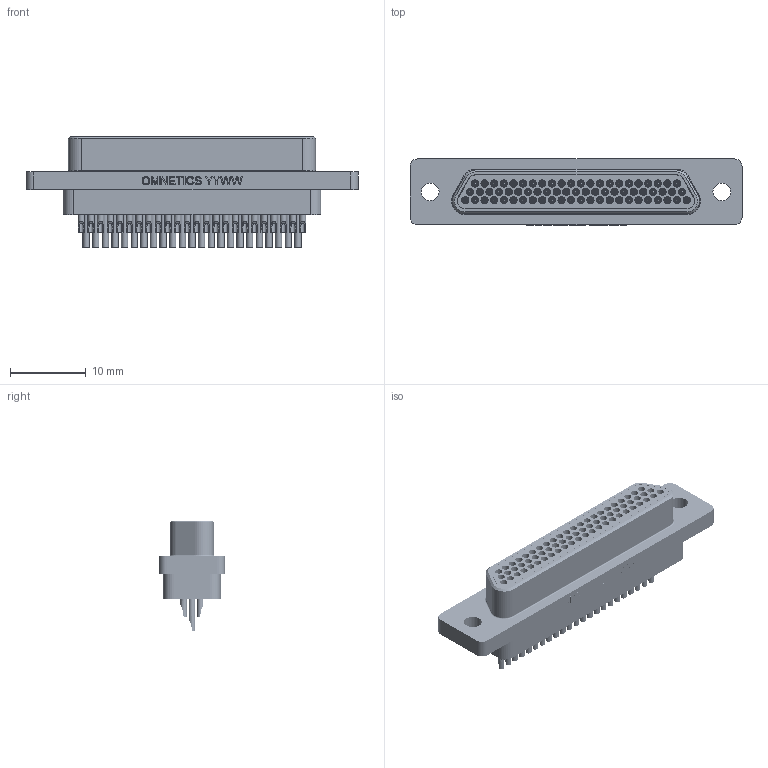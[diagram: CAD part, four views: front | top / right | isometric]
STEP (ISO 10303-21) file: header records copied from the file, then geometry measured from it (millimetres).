
FILE_DESCRIPTION (( 'STEP AP214' ), '1' );
FILE_NAME ('A98000-069 REV A.STEP', '2021-02-04T17:42:27', ( '' ), ( '' ), 'SwSTEP 2.0', 'SolidWorks 2019', '' );
FILE_SCHEMA (( 'AUTOMOTIVE_DESIGN' ));
Length unit declared in the file: inch
Products named in the file (1): A98000-069 REV A
Bounding box: 43.81 x 8.72 x 14.63 mm (x, y, z)
Volume: 2268.5 mm3; surface area: 4873 mm2
Topology: 1 solids, 1 shells, 2651 faces, 5938 edges, 3368 vertices
Faces by surface type: cylinder 1204, torus 419, cone 419, plane 417, sphere 138, bspline 54
Entity records: 111212 total; most frequent: CARTESIAN_POINT 17848, DIRECTION 13803, ORIENTED_EDGE 11220, AXIS2_PLACEMENT_3D 5845, EDGE_CURVE 5610, VERTEX_POINT 3322, CIRCLE 3247, EDGE_LOOP 3016
